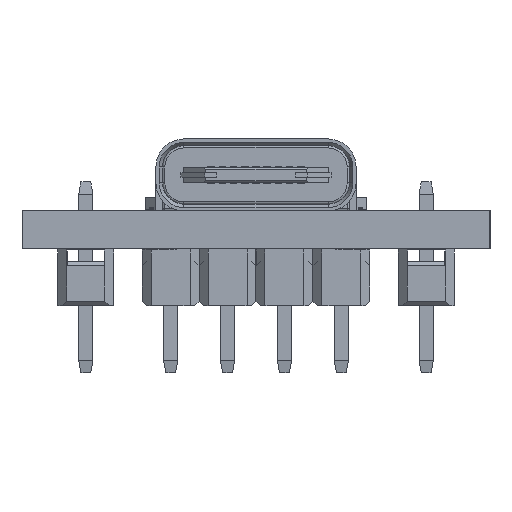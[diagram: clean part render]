
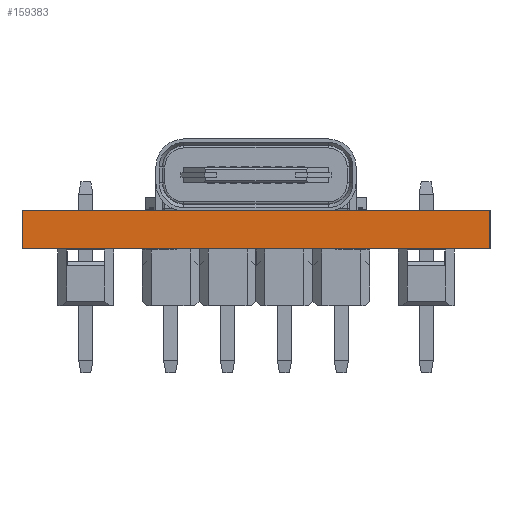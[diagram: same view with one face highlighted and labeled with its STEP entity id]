
A CAD part, left-side view. The second image highlights one B-rep face of the part: STEP entity #159383.
In plain terms, the highlighted planar face has unit normal (-1, 0, 0).
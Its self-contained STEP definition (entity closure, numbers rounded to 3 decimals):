
#14081 = LINE ( 'NONE', #28787, #61717 ) ;
#16801 = AXIS2_PLACEMENT_3D ( 'NONE', #72428, #27167, #41904 ) ;
#22187 = VERTEX_POINT ( 'NONE', #120653 ) ;
#27167 = DIRECTION ( 'NONE',  ( -1., 0., 0. ) ) ;
#28787 = CARTESIAN_POINT ( 'NONE',  ( -26.5, -10.45, 1.7 ) ) ;
#31401 = LINE ( 'NONE', #137982, #141779 ) ;
#34963 = CARTESIAN_POINT ( 'NONE',  ( -26.5, -10.45, 0. ) ) ;
#37993 = VERTEX_POINT ( 'NONE', #34963 ) ;
#41904 = DIRECTION ( 'NONE',  ( 0., 0., 1. ) ) ;
#43884 = CARTESIAN_POINT ( 'NONE',  ( -26.5, -10.45, 0. ) ) ;
#45002 = FACE_OUTER_BOUND ( 'NONE', #147078, .T. ) ;
#48247 = DIRECTION ( 'NONE',  ( 0., 0., 1. ) ) ;
#55514 = DIRECTION ( 'NONE',  ( 0., 1., 0. ) ) ;
#56540 = LINE ( 'NONE', #43884, #123554 ) ;
#61717 = VECTOR ( 'NONE', #126540, 1000. ) ;
#64023 = CARTESIAN_POINT ( 'NONE',  ( -26.5, -10.45, 0. ) ) ;
#70378 = VERTEX_POINT ( 'NONE', #170637 ) ;
#72428 = CARTESIAN_POINT ( 'NONE',  ( -26.5, 10.45, 0. ) ) ;
#73837 = DIRECTION ( 'NONE',  ( 0., 0., 1. ) ) ;
#78180 = EDGE_CURVE ( 'NONE', #37993, #102894, #56540, .T. ) ;
#102894 = VERTEX_POINT ( 'NONE', #181036 ) ;
#120653 = CARTESIAN_POINT ( 'NONE',  ( -26.5, 10.45, 1.7 ) ) ;
#123554 = VECTOR ( 'NONE', #55514, 1000. ) ;
#126540 = DIRECTION ( 'NONE',  ( 0., -1., 0. ) ) ;
#129100 = ORIENTED_EDGE ( 'NONE', *, *, #167482, .F. ) ;
#129106 = ORIENTED_EDGE ( 'NONE', *, *, #137920, .F. ) ;
#132806 = EDGE_CURVE ( 'NONE', #37993, #70378, #195375, .T. ) ;
#137920 = EDGE_CURVE ( 'NONE', #102894, #22187, #31401, .T. ) ;
#137982 = CARTESIAN_POINT ( 'NONE',  ( -26.5, 10.45, 0. ) ) ;
#141779 = VECTOR ( 'NONE', #73837, 1000. ) ;
#147078 = EDGE_LOOP ( 'NONE', ( #177256, #192153, #129100, #129106 ) ) ;
#152375 = PLANE ( 'NONE',  #16801 ) ;
#159383 = ADVANCED_FACE ( 'NONE', ( #45002 ), #152375, .T. ) ;
#167482 = EDGE_CURVE ( 'NONE', #22187, #70378, #14081, .T. ) ;
#170637 = CARTESIAN_POINT ( 'NONE',  ( -26.5, -10.45, 1.7 ) ) ;
#177256 = ORIENTED_EDGE ( 'NONE', *, *, #78180, .F. ) ;
#181036 = CARTESIAN_POINT ( 'NONE',  ( -26.5, 10.45, 0. ) ) ;
#192153 = ORIENTED_EDGE ( 'NONE', *, *, #132806, .T. ) ;
#195375 = LINE ( 'NONE', #64023, #201249 ) ;
#201249 = VECTOR ( 'NONE', #48247, 1000. ) ;
